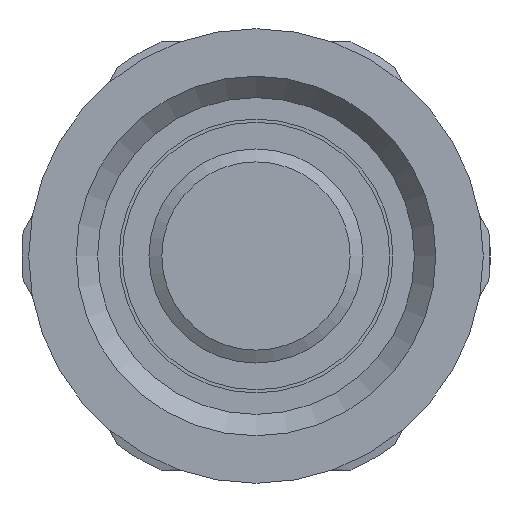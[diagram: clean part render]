
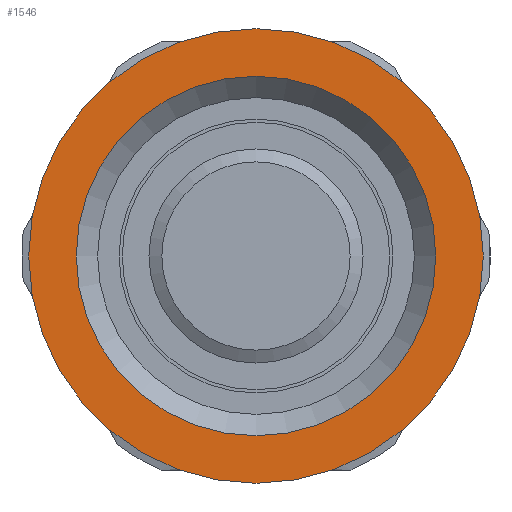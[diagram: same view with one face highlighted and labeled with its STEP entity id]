
A CAD part, left-side view. The second image highlights one B-rep face of the part: STEP entity #1546.
In plain terms, the highlighted planar face has unit normal (-1, 0, 0).
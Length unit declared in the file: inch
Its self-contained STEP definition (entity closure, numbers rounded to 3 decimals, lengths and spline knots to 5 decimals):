
#1512=CARTESIAN_POINT('',(-2.63621,-0.531,0.0));
#1513=VERTEX_POINT('',#1512);
#1514=CARTESIAN_POINT('',(-2.63621,0.,0.0));
#1515=DIRECTION('',(-1.0,0.0,0.0));
#1516=DIRECTION('',(0.0,-1.0,0.0));
#1517=AXIS2_PLACEMENT_3D('',#1514,#1515,#1516);
#1518=CIRCLE('',#1517,0.531);
#1519=EDGE_CURVE('',#1513,#1513,#1518,.T.);
#1527=CARTESIAN_POINT('',(-2.63621,-0.4755,0.0));
#1528=DIRECTION('',(-1.0,0.0,0.0));
#1529=DIRECTION('',(0.0,0.0,-1.0));
#1530=AXIS2_PLACEMENT_3D('',#1527,#1528,#1529);
#1531=PLANE('',#1530);
#1532=ORIENTED_EDGE('',*,*,#1519,.T.);
#1533=EDGE_LOOP('',(#1532));
#1534=FACE_OUTER_BOUND('',#1533,.T.);
#1535=CARTESIAN_POINT('',(-2.63621,-0.42,0.0));
#1536=VERTEX_POINT('',#1535);
#1537=CARTESIAN_POINT('',(-2.63621,0.,0.0));
#1538=DIRECTION('',(-1.0,0.0,0.0));
#1539=DIRECTION('',(0.0,-1.0,0.0));
#1540=AXIS2_PLACEMENT_3D('',#1537,#1538,#1539);
#1541=CIRCLE('',#1540,0.42);
#1542=EDGE_CURVE('',#1536,#1536,#1541,.T.);
#1543=ORIENTED_EDGE('',*,*,#1542,.F.);
#1544=EDGE_LOOP('',(#1543));
#1545=FACE_BOUND('',#1544,.T.);
#1546=ADVANCED_FACE('',(#1534,#1545),#1531,.T.);
